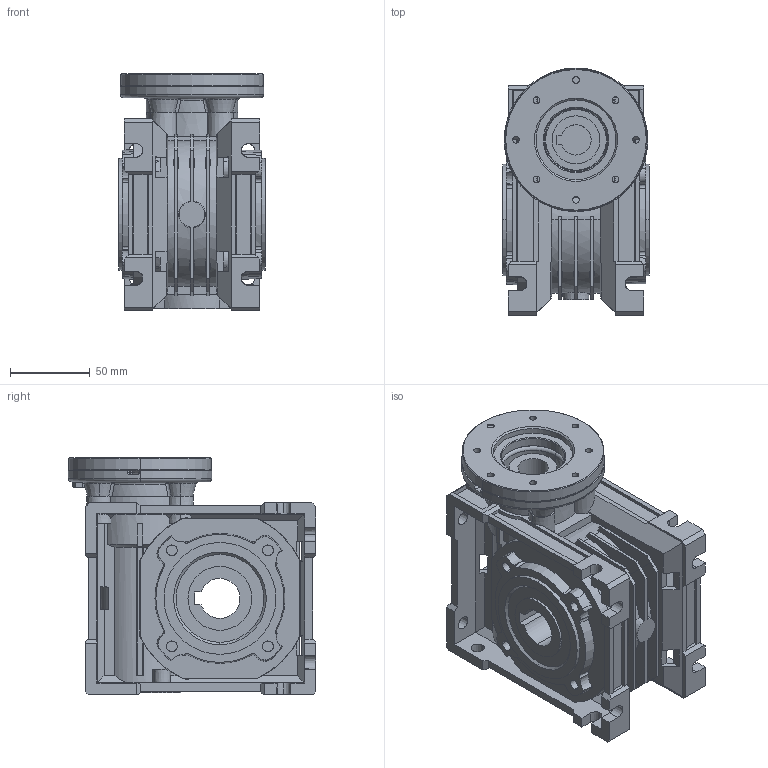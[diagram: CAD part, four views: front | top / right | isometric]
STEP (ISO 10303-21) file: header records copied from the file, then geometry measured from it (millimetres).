
FILE_DESCRIPTION (( 'STEP AP214' ), '1' );
FILE_NAME ('AF2017-0029.2_Alleggerito.STEP', '2017-03-17T16:06:55', ( '' ), ( '' ), 'SwSTEP 2.0', 'SolidWorks 2013', '' );
FILE_SCHEMA (( 'AUTOMOTIVE_DESIGN' ));
Length unit declared in the file: millimetre
Products named in the file (6): TESTA ESAGONALE FILETTATO UNI5739 DIN 933_M5x14; STU_17_0029.2.2; TESTA CILINDRICA FILETTATO UNI 5931 DIN 912_M8x14; W5004090; CM050_U_NO PAM; AF2017-0029.2_Alleggerito
Assembly tree (5 placements, depth 2):
  AF2017-0029.2_Alleggerito
    CM050_U_NO PAM
    W5004090
    TESTA CILINDRICA FILETTATO UNI 5931 DIN 912_M8x14
    STU_17_0029.2.2
    TESTA ESAGONALE FILETTATO UNI5739 DIN 933_M5x14
Bounding box: 92 x 154.97 x 148 mm (x, y, z)
Volume: 984492.1 mm3; surface area: 192818.2 mm2
Topology: 5 solids, 5 shells, 1131 faces, 3016 edges, 1936 vertices
Faces by surface type: plane 576, cone 276, cylinder 96, bspline 96, sphere 44, torus 43
Entity records: 41398 total; most frequent: CARTESIAN_POINT 13259, ORIENTED_EDGE 6020, DIRECTION 5158, EDGE_CURVE 3010, VERTEX_POINT 1936, AXIS2_PLACEMENT_3D 1819, LINE 1520, VECTOR 1520
